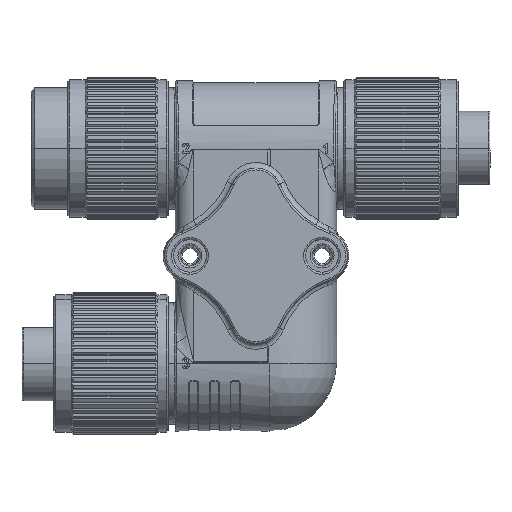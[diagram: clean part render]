
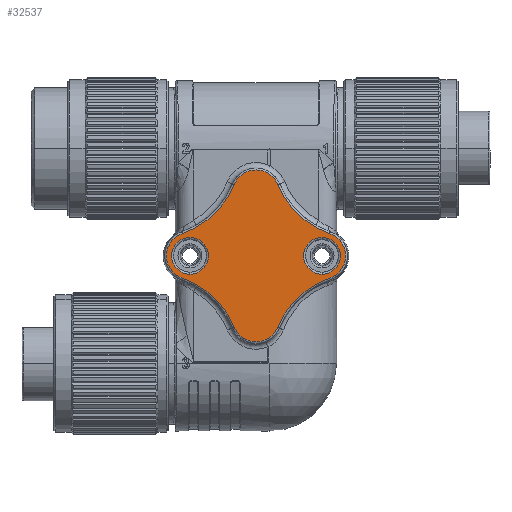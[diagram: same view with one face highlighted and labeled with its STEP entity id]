
A CAD part, top view. The second image highlights one B-rep face of the part: STEP entity #32537.
In plain terms, the highlighted planar face has unit normal (0, 0, 1).
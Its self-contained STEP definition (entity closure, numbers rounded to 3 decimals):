
#103 = EDGE_CURVE ( 'NONE', #23633, #22343, #18178, .T. ) ;
#495 = AXIS2_PLACEMENT_3D ( 'NONE', #17310, #40640, #20684 ) ;
#550 = AXIS2_PLACEMENT_3D ( 'NONE', #2352, #25848, #5759 ) ;
#760 = ORIENTED_EDGE ( 'NONE', *, *, #18275, .F. ) ;
#1844 = DIRECTION ( 'NONE',  ( 1., 0., 0. ) ) ;
#2085 = ORIENTED_EDGE ( 'NONE', *, *, #35420, .F. ) ;
#2319 = AXIS2_PLACEMENT_3D ( 'NONE', #12169, #35594, #15554 ) ;
#2352 = CARTESIAN_POINT ( 'NONE',  ( -29.349, 29.98, 24. ) ) ;
#3000 = EDGE_CURVE ( 'NONE', #40221, #20030, #6000, .T. ) ;
#3830 = VERTEX_POINT ( 'NONE', #31101 ) ;
#4386 = CIRCLE ( 'NONE', #550, 24.91 ) ;
#4506 = EDGE_CURVE ( 'NONE', #20030, #3830, #34746, .T. ) ;
#4544 = FACE_OUTER_BOUND ( 'NONE', #23123, .T. ) ;
#5567 = CARTESIAN_POINT ( 'NONE',  ( -19.05, -5.304, 24. ) ) ;
#5759 = DIRECTION ( 'NONE',  ( 1., 0., 0. ) ) ;
#6000 = CIRCLE ( 'NONE', #27630, 24.91 ) ;
#6991 = CARTESIAN_POINT ( 'NONE',  ( -19.05, 0., 24. ) ) ;
#7788 = DIRECTION ( 'NONE',  ( 0., 0., -1. ) ) ;
#7815 = CARTESIAN_POINT ( 'NONE',  ( 0., 18., 24. ) ) ;
#7966 = EDGE_CURVE ( 'NONE', #22956, #22063, #22930, .T. ) ;
#8039 = CARTESIAN_POINT ( 'NONE',  ( -19.05, 0., 24. ) ) ;
#8075 = DIRECTION ( 'NONE',  ( 0., 0., 1. ) ) ;
#8812 = CIRCLE ( 'NONE', #495, 5.304 ) ;
#9114 = AXIS2_PLACEMENT_3D ( 'NONE', #6991, #30469, #10355 ) ;
#9131 = DIRECTION ( 'NONE',  ( 0., 0., 1. ) ) ;
#9475 = CARTESIAN_POINT ( 'NONE',  ( -6.286, -20.566, 24. ) ) ;
#10355 = DIRECTION ( 'NONE',  ( 0., -1., 0. ) ) ;
#10963 = DIRECTION ( 'NONE',  ( 0., 0., 1. ) ) ;
#10970 = EDGE_CURVE ( 'NONE', #3830, #42959, #4386, .T. ) ;
#11178 = DIRECTION ( 'NONE',  ( 0., -1., 0. ) ) ;
#11396 = DIRECTION ( 'NONE',  ( 1., 0., 0. ) ) ;
#11590 = VERTEX_POINT ( 'NONE', #31189 ) ;
#12169 = CARTESIAN_POINT ( 'NONE',  ( 29.349, 29.98, 24. ) ) ;
#13851 = CARTESIAN_POINT ( 'NONE',  ( 0., -18., 24. ) ) ;
#13869 = ORIENTED_EDGE ( 'NONE', *, *, #27118, .F. ) ;
#14392 = EDGE_CURVE ( 'NONE', #17269, #22956, #22142, .T. ) ;
#14550 = FACE_BOUND ( 'NONE', #16875, .T. ) ;
#15257 = PLANE ( 'NONE',  #41321 ) ;
#15554 = DIRECTION ( 'NONE',  ( 1., 0., 0. ) ) ;
#16276 = ORIENTED_EDGE ( 'NONE', *, *, #103, .F. ) ;
#16518 = AXIS2_PLACEMENT_3D ( 'NONE', #13851, #37290, #17276 ) ;
#16523 = CARTESIAN_POINT ( 'NONE',  ( -6.286, 20.566, 24. ) ) ;
#16875 = EDGE_LOOP ( 'NONE', ( #18792, #16276 ) ) ;
#17227 = CARTESIAN_POINT ( 'NONE',  ( 6.286, -20.566, 24. ) ) ;
#17269 = VERTEX_POINT ( 'NONE', #41310 ) ;
#17276 = DIRECTION ( 'NONE',  ( 0., -1., 0. ) ) ;
#17310 = CARTESIAN_POINT ( 'NONE',  ( 19.05, 0., 24. ) ) ;
#17795 = ORIENTED_EDGE ( 'NONE', *, *, #10970, .F. ) ;
#18178 = CIRCLE ( 'NONE', #35955, 5.304 ) ;
#18275 = EDGE_CURVE ( 'NONE', #20817, #27109, #8812, .T. ) ;
#18792 = ORIENTED_EDGE ( 'NONE', *, *, #40588, .F. ) ;
#19021 = AXIS2_PLACEMENT_3D ( 'NONE', #27881, #7788, #31236 ) ;
#19320 = CARTESIAN_POINT ( 'NONE',  ( 19.05, 0., 24. ) ) ;
#19387 = ORIENTED_EDGE ( 'NONE', *, *, #43399, .F. ) ;
#20030 = VERTEX_POINT ( 'NONE', #34231 ) ;
#20230 = AXIS2_PLACEMENT_3D ( 'NONE', #29240, #9131, #32601 ) ;
#20684 = DIRECTION ( 'NONE',  ( 1., 0., 0. ) ) ;
#20817 = VERTEX_POINT ( 'NONE', #24892 ) ;
#21162 = ORIENTED_EDGE ( 'NONE', *, *, #7966, .F. ) ;
#21400 = CIRCLE ( 'NONE', #2319, 24.91 ) ;
#22032 = DIRECTION ( 'NONE',  ( 0., 0., 1. ) ) ;
#22063 = VERTEX_POINT ( 'NONE', #17227 ) ;
#22142 = CIRCLE ( 'NONE', #19021, 6.79 ) ;
#22343 = VERTEX_POINT ( 'NONE', #5567 ) ;
#22538 = CARTESIAN_POINT ( 'NONE',  ( 19.05, 5.304, 24. ) ) ;
#22687 = DIRECTION ( 'NONE',  ( 1., 0., 0. ) ) ;
#22930 = CIRCLE ( 'NONE', #20230, 24.91 ) ;
#22956 = VERTEX_POINT ( 'NONE', #33227 ) ;
#23123 = EDGE_LOOP ( 'NONE', ( #26680, #38723, #19387, #17795, #36929, #25653, #2085, #21162 ) ) ;
#23633 = VERTEX_POINT ( 'NONE', #41982 ) ;
#23645 = EDGE_LOOP ( 'NONE', ( #760, #13869 ) ) ;
#24892 = CARTESIAN_POINT ( 'NONE',  ( 19.05, -5.304, 24. ) ) ;
#25653 = ORIENTED_EDGE ( 'NONE', *, *, #3000, .F. ) ;
#25848 = DIRECTION ( 'NONE',  ( 0., 0., 1. ) ) ;
#26680 = ORIENTED_EDGE ( 'NONE', *, *, #14392, .F. ) ;
#27093 = CIRCLE ( 'NONE', #41898, 6.79 ) ;
#27109 = VERTEX_POINT ( 'NONE', #22538 ) ;
#27118 = EDGE_CURVE ( 'NONE', #27109, #20817, #30098, .T. ) ;
#27630 = AXIS2_PLACEMENT_3D ( 'NONE', #31075, #10963, #34429 ) ;
#27881 = CARTESIAN_POINT ( 'NONE',  ( 19.05, 0., 24. ) ) ;
#28154 = CARTESIAN_POINT ( 'NONE',  ( -19.05, 0., 24. ) ) ;
#29240 = CARTESIAN_POINT ( 'NONE',  ( 29.349, -29.98, 24. ) ) ;
#29263 = AXIS2_PLACEMENT_3D ( 'NONE', #28154, #8075, #31531 ) ;
#30098 = CIRCLE ( 'NONE', #43125, 5.304 ) ;
#30463 = CIRCLE ( 'NONE', #29263, 5.304 ) ;
#30469 = DIRECTION ( 'NONE',  ( 0., 0., -1. ) ) ;
#31075 = CARTESIAN_POINT ( 'NONE',  ( -29.349, -29.98, 24. ) ) ;
#31101 = CARTESIAN_POINT ( 'NONE',  ( -21.256, 6.421, 24. ) ) ;
#31189 = CARTESIAN_POINT ( 'NONE',  ( 6.286, 20.566, 24. ) ) ;
#31236 = DIRECTION ( 'NONE',  ( 0., -1., 0. ) ) ;
#31267 = DIRECTION ( 'NONE',  ( 0., 0., -1. ) ) ;
#31489 = DIRECTION ( 'NONE',  ( 0., 0., 1. ) ) ;
#31531 = DIRECTION ( 'NONE',  ( 1., 0., 0. ) ) ;
#32537 = ADVANCED_FACE ( 'NONE', ( #14550, #39150, #4544 ), #15257, .T. ) ;
#32559 = EDGE_CURVE ( 'NONE', #11590, #17269, #21400, .T. ) ;
#32601 = DIRECTION ( 'NONE',  ( 1., 0., 0. ) ) ;
#32726 = CIRCLE ( 'NONE', #16518, 6.79 ) ;
#33227 = CARTESIAN_POINT ( 'NONE',  ( 21.256, -6.421, 24. ) ) ;
#34231 = CARTESIAN_POINT ( 'NONE',  ( -21.256, -6.421, 24. ) ) ;
#34429 = DIRECTION ( 'NONE',  ( 1., 0., 0. ) ) ;
#34746 = CIRCLE ( 'NONE', #9114, 6.79 ) ;
#35420 = EDGE_CURVE ( 'NONE', #22063, #40221, #32726, .T. ) ;
#35594 = DIRECTION ( 'NONE',  ( 0., 0., 1. ) ) ;
#35955 = AXIS2_PLACEMENT_3D ( 'NONE', #8039, #31489, #11396 ) ;
#36929 = ORIENTED_EDGE ( 'NONE', *, *, #4506, .F. ) ;
#37290 = DIRECTION ( 'NONE',  ( 0., 0., -1. ) ) ;
#38723 = ORIENTED_EDGE ( 'NONE', *, *, #32559, .F. ) ;
#39150 = FACE_BOUND ( 'NONE', #23645, .T. ) ;
#40221 = VERTEX_POINT ( 'NONE', #9475 ) ;
#40588 = EDGE_CURVE ( 'NONE', #22343, #23633, #30463, .T. ) ;
#40640 = DIRECTION ( 'NONE',  ( 0., 0., 1. ) ) ;
#41310 = CARTESIAN_POINT ( 'NONE',  ( 21.256, 6.421, 24. ) ) ;
#41321 = AXIS2_PLACEMENT_3D ( 'NONE', #42004, #22032, #1844 ) ;
#41898 = AXIS2_PLACEMENT_3D ( 'NONE', #7815, #31267, #11178 ) ;
#41982 = CARTESIAN_POINT ( 'NONE',  ( -19.05, 5.304, 24. ) ) ;
#42004 = CARTESIAN_POINT ( 'NONE',  ( 9.764, 6.016, 24. ) ) ;
#42655 = DIRECTION ( 'NONE',  ( 0., 0., 1. ) ) ;
#42959 = VERTEX_POINT ( 'NONE', #16523 ) ;
#43125 = AXIS2_PLACEMENT_3D ( 'NONE', #19320, #42655, #22687 ) ;
#43399 = EDGE_CURVE ( 'NONE', #42959, #11590, #27093, .T. ) ;
